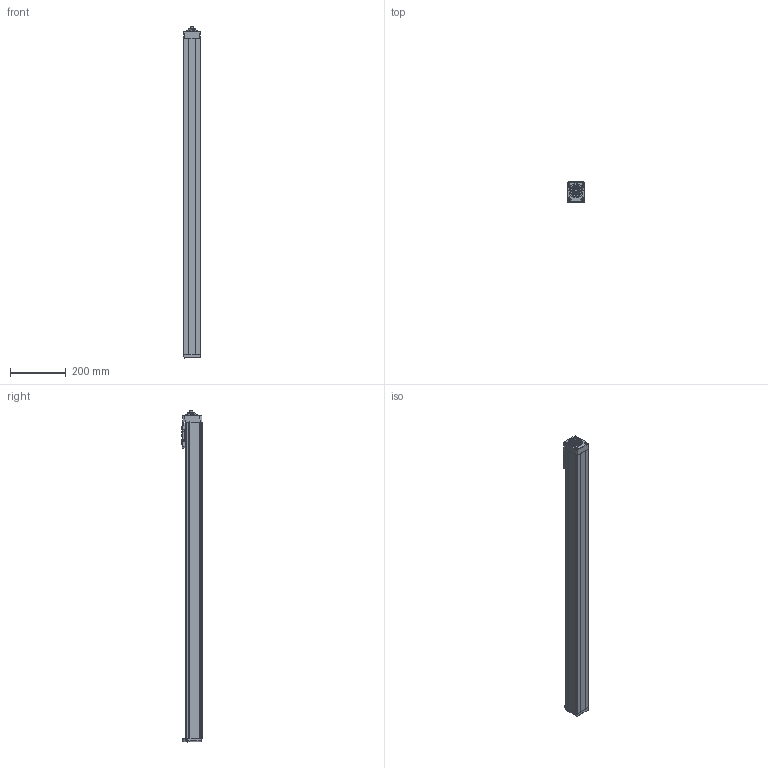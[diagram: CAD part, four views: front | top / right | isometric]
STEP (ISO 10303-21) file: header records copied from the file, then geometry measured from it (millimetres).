
FILE_DESCRIPTION(/* description */ ('STEP AP214'),/* implementation_level */ '2;1');
FILE_NAME(/* name */ 'MGBS 60 1210 1000(0)',/* time_stamp */ '2023-04-17T13:21:51+02:00',/* author */ ('License CC BY-ND 4.0'),/* organization */ ('CADENAS'),/* preprocessor_version */ 'ST-DEVELOPER v19.3',/* originating_system */ 'PARTsolutions',/* authorisation */ ' ');
FILE_SCHEMA (('AUTOMOTIVE_DESIGN {1 0 10303 214 3 1 1}'));
Length unit declared in the file: millimetre
Products named in the file (6): MGBS 60 1210 1000(0); MGBS 60 1000_protection_strip; MGBS 60_carriage; MGBS 60_end_block; MGBS 60 1000_profile; MGBS 60_drive_block
Assembly tree (5 placements, depth 2):
  MGBS 60 1210 1000(0)
    MGBS 60 1000_protection_strip
    MGBS 60_carriage
    MGBS 60_end_block
    MGBS 60 1000_profile
    MGBS 60_drive_block
Bounding box: 60 x 72 x 1192 mm (x, y, z)
Volume: 4090664.3 mm3; surface area: 488722.3 mm2
Topology: 5 solids, 5 shells, 694 faces, 1756 edges, 1135 vertices
Faces by surface type: plane 366, cylinder 144, cone 97, bspline 62, torus 23, sphere 2
Full cylindrical faces by diameter (mm): 2.459 x2, 2.46 x2, 3.242 x4, 4 x14, 4.134 x8, 4.8 x2, 5 x2, 5.5 x4, 7 x8, 7.6 x4, 8 x2, 10 x1, 11 x3, 23.8 x1, 30 x1, 42 x2, 50.2 x1
Entity records: 24817 total; most frequent: CARTESIAN_POINT 4104, DIRECTION 3372, ORIENTED_EDGE 3194, EDGE_CURVE 1597, AXIS2_PLACEMENT_3D 1197, VERTEX_POINT 1113, LINE 978, VECTOR 978
